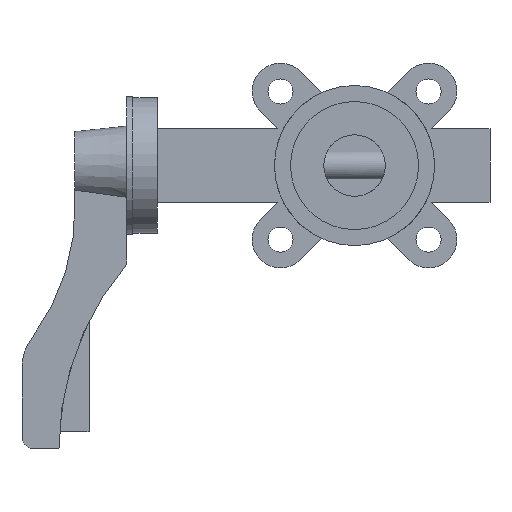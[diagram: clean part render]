
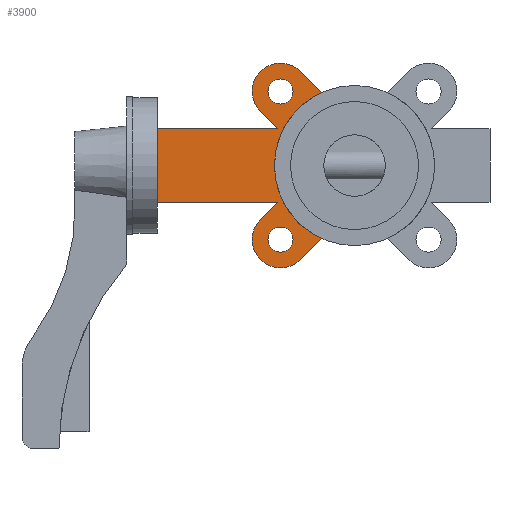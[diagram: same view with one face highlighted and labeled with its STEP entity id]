
A CAD part, left-side view. The second image highlights one B-rep face of the part: STEP entity #3900.
In plain terms, the highlighted planar face has unit normal (-1, 0, 0).
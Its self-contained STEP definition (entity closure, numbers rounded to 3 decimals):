
#37 = DIRECTION ( 'NONE',  ( 0., 1., 0. ) ) ;
#94 = DIRECTION ( 'NONE',  ( 0., 0., -1. ) ) ;
#108 = VERTEX_POINT ( 'NONE', #2238 ) ;
#115 = CARTESIAN_POINT ( 'NONE',  ( -12.5, 38.184, -21.92 ) ) ;
#132 = ORIENTED_EDGE ( 'NONE', *, *, #3587, .F. ) ;
#153 = VERTEX_POINT ( 'NONE', #2306 ) ;
#215 = EDGE_CURVE ( 'NONE', #3854, #2215, #646, .T. ) ;
#250 = DIRECTION ( 'NONE',  ( 0., -1., 0. ) ) ;
#276 = DIRECTION ( 'NONE',  ( 1., 0., 0. ) ) ;
#289 = ORIENTED_EDGE ( 'NONE', *, *, #2750, .F. ) ;
#306 = ORIENTED_EDGE ( 'NONE', *, *, #3153, .F. ) ;
#354 = VECTOR ( 'NONE', #2118, 1000. ) ;
#379 = LINE ( 'NONE', #3570, #2474 ) ;
#434 = ORIENTED_EDGE ( 'NONE', *, *, #2853, .F. ) ;
#459 = AXIS2_PLACEMENT_3D ( 'NONE', #2464, #2509, #3737 ) ;
#483 = VERTEX_POINT ( 'NONE', #3569 ) ;
#538 = CARTESIAN_POINT ( 'NONE',  ( -12.5, 28.831, 15. ) ) ;
#546 = ORIENTED_EDGE ( 'NONE', *, *, #3402, .F. ) ;
#551 = VECTOR ( 'NONE', #920, 1000. ) ;
#568 = AXIS2_PLACEMENT_3D ( 'NONE', #1376, #3885, #3976 ) ;
#574 = CIRCLE ( 'NONE', #3111, 32.5 ) ;
#628 = CARTESIAN_POINT ( 'NONE',  ( -12.5, 80., 0. ) ) ;
#643 = ORIENTED_EDGE ( 'NONE', *, *, #1816, .F. ) ;
#646 = CIRCLE ( 'NONE', #2067, 5.1 ) ;
#652 = VERTEX_POINT ( 'NONE', #1186 ) ;
#663 = CIRCLE ( 'NONE', #3257, 5.1 ) ;
#671 = VERTEX_POINT ( 'NONE', #1763 ) ;
#762 = DIRECTION ( 'NONE',  ( 1., 0., 0. ) ) ;
#770 = DIRECTION ( 'NONE',  ( 0., 0., -1. ) ) ;
#784 = DIRECTION ( 'NONE',  ( -1., 0., 0. ) ) ;
#786 = DIRECTION ( 'NONE',  ( 1., 0., 0. ) ) ;
#829 = CARTESIAN_POINT ( 'NONE',  ( -12.5, 21.92, 38.184 ) ) ;
#920 = DIRECTION ( 'NONE',  ( 0., 0.707, 0.707 ) ) ;
#958 = CARTESIAN_POINT ( 'NONE',  ( -12.5, 38.184, 21.92 ) ) ;
#1010 = LINE ( 'NONE', #115, #1954 ) ;
#1054 = DIRECTION ( 'NONE',  ( 1., 0., 0. ) ) ;
#1111 = DIRECTION ( 'NONE',  ( 0., 0., -1. ) ) ;
#1186 = CARTESIAN_POINT ( 'NONE',  ( -12.5, 31.263, 15. ) ) ;
#1221 = EDGE_CURVE ( 'NONE', #1756, #2635, #2297, .T. ) ;
#1243 = EDGE_CURVE ( 'NONE', #483, #3311, #1010, .T. ) ;
#1332 = PLANE ( 'NONE',  #568 ) ;
#1376 = CARTESIAN_POINT ( 'NONE',  ( -12.5, 0., 0. ) ) ;
#1402 = EDGE_LOOP ( 'NONE', ( #3070, #3244 ) ) ;
#1480 = VERTEX_POINT ( 'NONE', #3242 ) ;
#1500 = DIRECTION ( 'NONE',  ( 0., 0., 1. ) ) ;
#1607 = CARTESIAN_POINT ( 'NONE',  ( -12.5, 30.052, 24.952 ) ) ;
#1652 = CARTESIAN_POINT ( 'NONE',  ( -12.5, 30.052, -30.052 ) ) ;
#1671 = CARTESIAN_POINT ( 'NONE',  ( -12.5, 0., 0. ) ) ;
#1732 = VECTOR ( 'NONE', #250, 1000. ) ;
#1756 = VERTEX_POINT ( 'NONE', #1898 ) ;
#1763 = CARTESIAN_POINT ( 'NONE',  ( -12.5, 21.92, 38.184 ) ) ;
#1807 = ORIENTED_EDGE ( 'NONE', *, *, #4095, .F. ) ;
#1813 = LINE ( 'NONE', #538, #1732 ) ;
#1816 = EDGE_CURVE ( 'NONE', #108, #3262, #574, .T. ) ;
#1844 = CIRCLE ( 'NONE', #459, 11.5 ) ;
#1898 = CARTESIAN_POINT ( 'NONE',  ( -12.5, 30.052, -35.152 ) ) ;
#1936 = ORIENTED_EDGE ( 'NONE', *, *, #2697, .F. ) ;
#1954 = VECTOR ( 'NONE', #3614, 1000. ) ;
#1971 = CARTESIAN_POINT ( 'NONE',  ( -12.5, 30.052, 41.552 ) ) ;
#1982 = CARTESIAN_POINT ( 'NONE',  ( -12.5, 31.263, -15. ) ) ;
#1988 = VECTOR ( 'NONE', #4142, 1000. ) ;
#1999 = ORIENTED_EDGE ( 'NONE', *, *, #1243, .F. ) ;
#2023 = CARTESIAN_POINT ( 'NONE',  ( -12.5, 30.052, -30.052 ) ) ;
#2029 = CARTESIAN_POINT ( 'NONE',  ( -12.5, 30.052, 30.052 ) ) ;
#2060 = AXIS2_PLACEMENT_3D ( 'NONE', #2023, #2074, #3339 ) ;
#2067 = AXIS2_PLACEMENT_3D ( 'NONE', #2641, #2329, #3233 ) ;
#2074 = DIRECTION ( 'NONE',  ( 1., 0., 0. ) ) ;
#2118 = DIRECTION ( 'NONE',  ( 0., -0.707, -0.707 ) ) ;
#2135 = EDGE_CURVE ( 'NONE', #2635, #1756, #2542, .T. ) ;
#2215 = VERTEX_POINT ( 'NONE', #3705 ) ;
#2230 = VECTOR ( 'NONE', #1500, 1000. ) ;
#2238 = CARTESIAN_POINT ( 'NONE',  ( -12.5, 13.362, 29.626 ) ) ;
#2297 = CIRCLE ( 'NONE', #4051, 5.1 ) ;
#2306 = CARTESIAN_POINT ( 'NONE',  ( -12.5, 21.92, -38.184 ) ) ;
#2329 = DIRECTION ( 'NONE',  ( 1., 0., 0. ) ) ;
#2383 = CARTESIAN_POINT ( 'NONE',  ( -12.5, 80., -15. ) ) ;
#2390 = CARTESIAN_POINT ( 'NONE',  ( -12.5, 30.052, 30.052 ) ) ;
#2406 = CARTESIAN_POINT ( 'NONE',  ( -12.5, 80., 15. ) ) ;
#2411 = ORIENTED_EDGE ( 'NONE', *, *, #3795, .F. ) ;
#2460 = LINE ( 'NONE', #628, #2230 ) ;
#2463 = EDGE_LOOP ( 'NONE', ( #3697, #2892 ) ) ;
#2464 = CARTESIAN_POINT ( 'NONE',  ( -12.5, 30.052, 30.052 ) ) ;
#2474 = VECTOR ( 'NONE', #37, 1000. ) ;
#2506 = LINE ( 'NONE', #958, #551 ) ;
#2509 = DIRECTION ( 'NONE',  ( 1., 0., 0. ) ) ;
#2542 = CIRCLE ( 'NONE', #2060, 5.1 ) ;
#2635 = VERTEX_POINT ( 'NONE', #4083 ) ;
#2641 = CARTESIAN_POINT ( 'NONE',  ( -12.5, 30.052, 30.052 ) ) ;
#2667 = CIRCLE ( 'NONE', #2928, 11.5 ) ;
#2673 = FACE_BOUND ( 'NONE', #2463, .T. ) ;
#2697 = EDGE_CURVE ( 'NONE', #3054, #652, #1813, .T. ) ;
#2724 = LINE ( 'NONE', #829, #354 ) ;
#2750 = EDGE_CURVE ( 'NONE', #652, #1480, #2506, .T. ) ;
#2785 = CARTESIAN_POINT ( 'NONE',  ( -12.5, 13.362, -29.626 ) ) ;
#2853 = EDGE_CURVE ( 'NONE', #671, #108, #2724, .T. ) ;
#2865 = CARTESIAN_POINT ( 'NONE',  ( -12.5, 21.92, -38.184 ) ) ;
#2889 = EDGE_LOOP ( 'NONE', ( #1807, #3696, #1999, #2411, #132, #643, #434, #546, #306, #289, #1936 ) ) ;
#2892 = ORIENTED_EDGE ( 'NONE', *, *, #215, .T. ) ;
#2928 = AXIS2_PLACEMENT_3D ( 'NONE', #2029, #1054, #770 ) ;
#3007 = FACE_OUTER_BOUND ( 'NONE', #2889, .T. ) ;
#3017 = VERTEX_POINT ( 'NONE', #2383 ) ;
#3054 = VERTEX_POINT ( 'NONE', #2406 ) ;
#3070 = ORIENTED_EDGE ( 'NONE', *, *, #2135, .T. ) ;
#3111 = AXIS2_PLACEMENT_3D ( 'NONE', #1671, #784, #1111 ) ;
#3153 = EDGE_CURVE ( 'NONE', #1480, #3889, #1844, .T. ) ;
#3174 = LINE ( 'NONE', #2865, #1988 ) ;
#3233 = DIRECTION ( 'NONE',  ( 0., 0., -1. ) ) ;
#3242 = CARTESIAN_POINT ( 'NONE',  ( -12.5, 38.184, 21.92 ) ) ;
#3244 = ORIENTED_EDGE ( 'NONE', *, *, #1221, .T. ) ;
#3257 = AXIS2_PLACEMENT_3D ( 'NONE', #2390, #786, #94 ) ;
#3262 = VERTEX_POINT ( 'NONE', #2785 ) ;
#3311 = VERTEX_POINT ( 'NONE', #1982 ) ;
#3339 = DIRECTION ( 'NONE',  ( 0., 0., -1. ) ) ;
#3402 = EDGE_CURVE ( 'NONE', #3889, #671, #2667, .T. ) ;
#3556 = EDGE_CURVE ( 'NONE', #3311, #3017, #379, .T. ) ;
#3569 = CARTESIAN_POINT ( 'NONE',  ( -12.5, 38.184, -21.92 ) ) ;
#3570 = CARTESIAN_POINT ( 'NONE',  ( -12.5, 28.831, -15. ) ) ;
#3587 = EDGE_CURVE ( 'NONE', #3262, #153, #3174, .T. ) ;
#3608 = FACE_BOUND ( 'NONE', #1402, .T. ) ;
#3614 = DIRECTION ( 'NONE',  ( 0., -0.707, 0.707 ) ) ;
#3673 = AXIS2_PLACEMENT_3D ( 'NONE', #4070, #276, #4027 ) ;
#3696 = ORIENTED_EDGE ( 'NONE', *, *, #3556, .F. ) ;
#3697 = ORIENTED_EDGE ( 'NONE', *, *, #3700, .T. ) ;
#3700 = EDGE_CURVE ( 'NONE', #2215, #3854, #663, .T. ) ;
#3705 = CARTESIAN_POINT ( 'NONE',  ( -12.5, 30.052, 35.152 ) ) ;
#3737 = DIRECTION ( 'NONE',  ( 0., 0., -1. ) ) ;
#3795 = EDGE_CURVE ( 'NONE', #153, #483, #3941, .T. ) ;
#3854 = VERTEX_POINT ( 'NONE', #1607 ) ;
#3885 = DIRECTION ( 'NONE',  ( 1., 0., 0. ) ) ;
#3889 = VERTEX_POINT ( 'NONE', #1971 ) ;
#3891 = DIRECTION ( 'NONE',  ( 0., 0., -1. ) ) ;
#3900 = ADVANCED_FACE ( 'NONE', ( #3608, #2673, #3007 ), #1332, .F. ) ;
#3941 = CIRCLE ( 'NONE', #3673, 11.5 ) ;
#3976 = DIRECTION ( 'NONE',  ( 0., 0., -1. ) ) ;
#4027 = DIRECTION ( 'NONE',  ( 0., 0., -1. ) ) ;
#4051 = AXIS2_PLACEMENT_3D ( 'NONE', #1652, #762, #3891 ) ;
#4070 = CARTESIAN_POINT ( 'NONE',  ( -12.5, 30.052, -30.052 ) ) ;
#4083 = CARTESIAN_POINT ( 'NONE',  ( -12.5, 30.052, -24.952 ) ) ;
#4095 = EDGE_CURVE ( 'NONE', #3017, #3054, #2460, .T. ) ;
#4142 = DIRECTION ( 'NONE',  ( 0., 0.707, -0.707 ) ) ;
